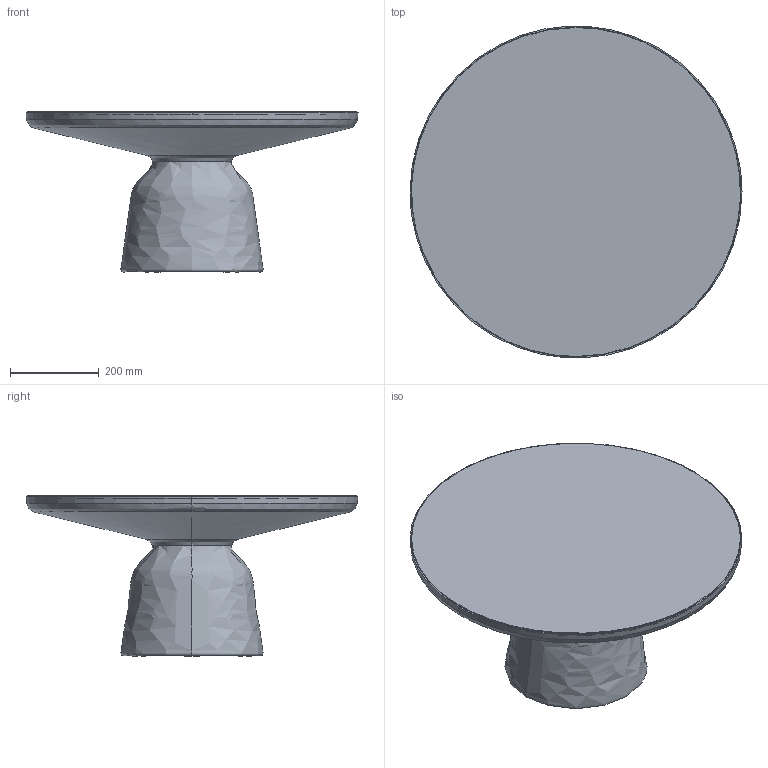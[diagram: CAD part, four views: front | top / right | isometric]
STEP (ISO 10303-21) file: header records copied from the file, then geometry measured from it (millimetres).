
FILE_DESCRIPTION(/* description */ (''),/* implementation_level */ '2;1');
FILE_NAME(/* name */ 'SH_BELL-COFFEE-TABLE-3DL_20230703',/* time_stamp */ '2023-07-04T08:46:42+02:00',/* author */ (''),/* organization */ (''),/* preprocessor_version */ 'ST-DEVELOPER v16.5',/* originating_system */ 'Rhino 7.29',/* authorisation */ '');
FILE_SCHEMA (('CONFIG_CONTROL_DESIGN'));
Length unit declared in the file: millimetre
Products named in the file (1): Document
Bounding box: 747.99 x 747.04 x 360.86 mm (x, y, z)
Volume: 27264716 mm3; surface area: 2174321.7 mm2
Topology: 2 solids, 3 shells, 22 faces, 40 edges, 24 vertices
Faces by surface type: bspline 12, plane 6, cylinder 4
Entity records: 1084 total; most frequent: CARTESIAN_POINT 733, ORIENTED_EDGE 78, EDGE_CURVE 40, VERTEX_POINT 24, EDGE_LOOP 23, ADVANCED_FACE 22, FACE_OUTER_BOUND 22, DIRECTION 16
